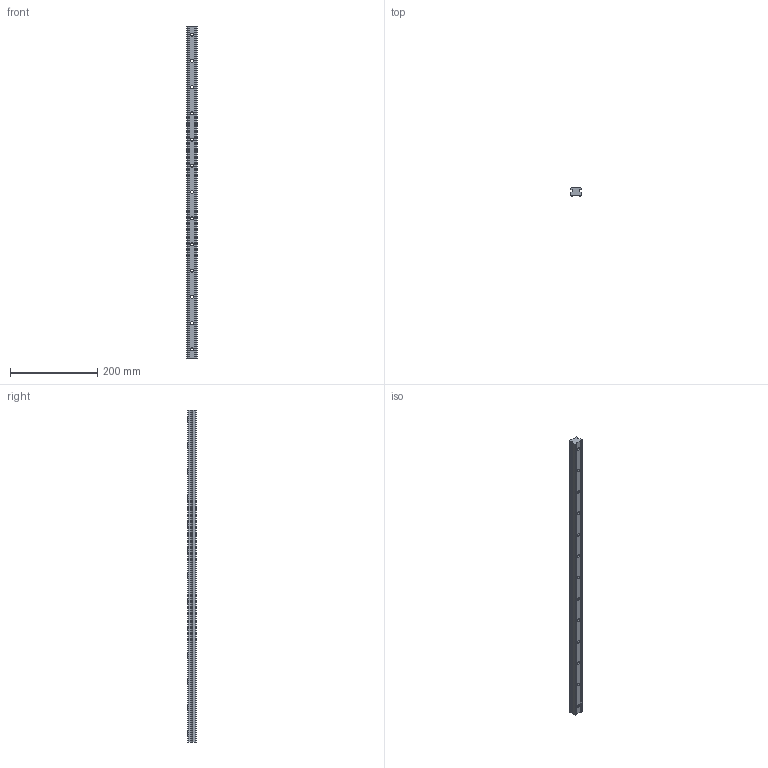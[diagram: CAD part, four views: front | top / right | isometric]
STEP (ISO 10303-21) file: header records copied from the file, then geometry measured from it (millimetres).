
FILE_DESCRIPTION (( 'STEP AP203' ), '1' );
FILE_NAME ('L1016.BL25-0760.step', '2019-06-12T12:05:38', ( '' ), ( '' ), 'SwSTEP 2.0', 'SolidWorks 2017', '' );
FILE_SCHEMA (( 'CONFIG_CONTROL_DESIGN' ));
Length unit declared in the file: millimetre
Products named in the file (1): L1016.BL25-0760
Bounding box: 23 x 19.2 x 760 mm (x, y, z)
Volume: 279773 mm3; surface area: 72592.8 mm2
Topology: 1 solids, 1 shells, 91 faces, 228 edges, 152 vertices
Faces by surface type: cylinder 56, plane 35
Entity records: 2903 total; most frequent: DIRECTION 524, CARTESIAN_POINT 472, ORIENTED_EDGE 456, EDGE_CURVE 228, AXIS2_PLACEMENT_3D 204, VERTEX_POINT 152, EDGE_LOOP 130, VECTOR 116
